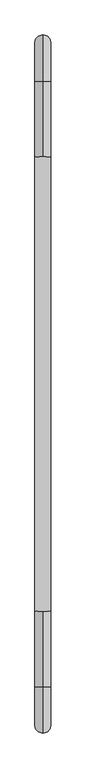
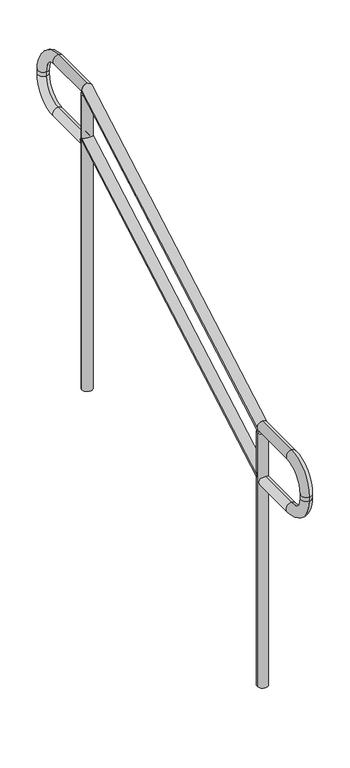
"""IFC4 building model written with IfcOpenShell, lengths in millimetres: railing geometry, Tubular com Fixação Tubular - 42mm com prolongamento."""

from ifc_helpers import new_model, si_unit, point, frame, frame_2d, origin, place, context, project, spatial, circle_curve, ellipse_curve, trimmed, segment, composite_curve, outline, extrude, source, transform, mapped, element, save
from ifc_brep_helpers import plane_surface, cylinder_surface, revolved_surface, advanced_brep


def railing_6d980c0e(model_context):
    return source(origin(), model_context, "Body", "SolidModel", [
        advanced_brep(
        [(5230.4201839, -4033.2411617, 1295.8626845), (5272.4201839, -4033.2411617, 1295.8626845), (5230.4201839, -2833.2411617, 1975.8626845), (5272.4201839, -2833.2411617, 1975.8626845)],
        [
            (0, 1, ellipse_curve(frame((5251.4201839, -4033.2411617, 1295.8626845), z_axis=(0.0, -1.0, 0.0), x_axis=(0.0, 0.0, -1.0)), 24.1373155, 21.0)),
            (1, 0, ellipse_curve(frame((5251.4201839, -4033.2411617, 1295.8626845), z_axis=(0.0, -1.0, 0.0), x_axis=(0.0, 0.0, -1.0)), 24.1373155, 21.0)),
            (2, 3, ellipse_curve(frame((5251.4201839, -2833.2411617, 1975.8626845), z_axis=(0.0, 1.0, 0.0), x_axis=(0.0, 0.0, -1.0)), 24.1373155, 21.0)),
            (3, 2, ellipse_curve(frame((5251.4201839, -2833.2411617, 1975.8626845), z_axis=(0.0, 1.0, 0.0), x_axis=(0.0, 0.0, -1.0)), 24.1373155, 21.0)),
            (0, 2),
            (3, 1),
        ],
        [
            plane_surface(frame((5251.4201839, -4033.2411617, 1320.0), z_axis=(0.0, -1.0, 0.0), x_axis=(0.0, 0.0, 1.0))),
            plane_surface(frame((5251.4201839, -2833.2411617, 2000.0), z_axis=(0.0, 1.0, 0.0), x_axis=(0.0, 0.0, 1.0))),
            cylinder_surface(frame((5251.4201839, -4022.8878977, 1301.7295341), z_axis=(0.0, -0.8700221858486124, -0.49301257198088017), x_axis=(1.0, 0.0, 0.0)), 21.0),
        ],
        [
            (0, [[1, 2]]),
            (1, [[3, 4]]),
            (2, [[-1, 5, -4, 6]]),
            (2, [[-2, -6, -3, -5]]),
        ],
    ),
        advanced_brep(
        [(5230.4201839, -4033.2411617, 1095.8626845), (5272.4201839, -4033.2411617, 1095.8626845), (5230.4201839, -2833.2411617, 1775.8626845), (5272.4201839, -2833.2411617, 1775.8626845)],
        [
            (0, 1, ellipse_curve(frame((5251.4201839, -4033.2411617, 1095.8626845), z_axis=(0.0, -1.0, 0.0), x_axis=(0.0, 0.0, -1.0)), 24.1373155, 21.0)),
            (1, 0, ellipse_curve(frame((5251.4201839, -4033.2411617, 1095.8626845), z_axis=(0.0, -1.0, 0.0), x_axis=(0.0, 0.0, -1.0)), 24.1373155, 21.0)),
            (2, 3, ellipse_curve(frame((5251.4201839, -2833.2411617, 1775.8626845), z_axis=(0.0, 1.0, 0.0), x_axis=(0.0, 0.0, -1.0)), 24.1373155, 21.0)),
            (3, 2, ellipse_curve(frame((5251.4201839, -2833.2411617, 1775.8626845), z_axis=(0.0, 1.0, 0.0), x_axis=(0.0, 0.0, -1.0)), 24.1373155, 21.0)),
            (0, 2),
            (3, 1),
        ],
        [
            plane_surface(frame((5251.4201839, -4033.2411617, 1120.0), z_axis=(0.0, -1.0, 0.0), x_axis=(0.0, 0.0, 1.0))),
            plane_surface(frame((5251.4201839, -2833.2411617, 1800.0), z_axis=(0.0, 1.0, 0.0), x_axis=(0.0, 0.0, 1.0))),
            cylinder_surface(frame((5251.4201839, -4022.8878977, 1101.7295341), z_axis=(0.0, -0.8700221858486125, -0.4930125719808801), x_axis=(1.0, 0.0, 0.0)), 21.0),
        ],
        [
            (0, [[1, 2]]),
            (1, [[3, 4]]),
            (2, [[-1, 5, -4, 6]]),
            (2, [[-2, -6, -3, -5]]),
        ],
    ),
        advanced_brep(
        [(5251.4201839, -2820.5411617, 1780.0), (5251.4201839, -2820.5411617, 1738.0), (5251.4201839, -2634.8411617, 1780.0), (5251.4201839, -2634.8411617, 1738.0), (5251.4201839, -2512.2411617, 1860.6), (5251.4201839, -2554.2411617, 1860.6), (5251.4201839, -2554.2411617, 1877.4), (5251.4201839, -2512.2411617, 1877.4), (5251.4201839, -2634.8411617, 2000.0), (5251.4201839, -2634.8411617, 1958.0), (5251.4201839, -2833.2411617, 1958.0), (5251.4201839, -2833.2411617, 2000.0)],
        [
            (0, 1, circle_curve(frame((5251.4201839, -2820.5411617, 1759.0), z_axis=(0.0, -1.0, 0.0), x_axis=(0.0, 0.0, -1.0)), 21.0)),
            (1, 0, circle_curve(frame((5251.4201839, -2820.5411617, 1759.0), z_axis=(0.0, -1.0, 0.0), x_axis=(0.0, 0.0, -1.0)), 21.0)),
            (0, 2),
            (2, 3, circle_curve(frame((5251.4201839, -2634.8411617, 1759.0), z_axis=(0.0, -1.0, 0.0), x_axis=(0.0, 0.0, -1.0)), 21.0)),
            (3, 1),
            (3, 2, circle_curve(frame((5251.4201839, -2634.8411617, 1759.0), z_axis=(0.0, -1.0, 0.0), x_axis=(0.0, 0.0, -1.0)), 21.0)),
            (4, 3, circle_curve(frame((5251.4201839, -2634.8411617, 1860.6), z_axis=(-1.0, 0.0, 0.0), x_axis=(0.0, 0.0, -1.0)), 122.6)),
            (2, 5, circle_curve(frame((5251.4201839, -2634.8411617, 1860.6), z_axis=(1.0, 0.0, 0.0), x_axis=(0.0, 0.0, -1.0)), 80.6)),
            (5, 4, circle_curve(frame((5251.4201839, -2533.2411617, 1860.6), z_axis=(0.0, 0.0, -1.0), x_axis=(0.0, 1.0, 0.0)), 21.0)),
            (4, 5, circle_curve(frame((5251.4201839, -2533.2411617, 1860.6), z_axis=(0.0, 0.0, -1.0), x_axis=(0.0, 1.0, 0.0)), 21.0)),
            (5, 6),
            (6, 7, circle_curve(frame((5251.4201839, -2533.2411617, 1877.4), z_axis=(0.0, 0.0, -1.0), x_axis=(0.0, 1.0, 0.0)), 21.0)),
            (7, 4),
            (7, 6, circle_curve(frame((5251.4201839, -2533.2411617, 1877.4), z_axis=(0.0, 0.0, -1.0), x_axis=(0.0, 1.0, 0.0)), 21.0)),
            (8, 7, circle_curve(frame((5251.4201839, -2634.8411617, 1877.4), z_axis=(-1.0, 0.0, 0.0), x_axis=(0.0, 1.0, 0.0)), 122.6)),
            (6, 9, circle_curve(frame((5251.4201839, -2634.8411617, 1877.4), z_axis=(1.0, 0.0, 0.0), x_axis=(0.0, 1.0, 0.0)), 80.6)),
            (9, 8, circle_curve(frame((5251.4201839, -2634.8411617, 1979.0), z_axis=(0.0, 1.0, 0.0), x_axis=(0.0, 0.0, 1.0)), 21.0)),
            (8, 9, circle_curve(frame((5251.4201839, -2634.8411617, 1979.0), z_axis=(0.0, 1.0, 0.0), x_axis=(0.0, 0.0, 1.0)), 21.0)),
            (10, 11, circle_curve(frame((5251.4201839, -2833.2411617, 1979.0), z_axis=(0.0, -1.0, 0.0), x_axis=(0.0, 0.0, 1.0)), 21.0)),
            (11, 10, circle_curve(frame((5251.4201839, -2833.2411617, 1979.0), z_axis=(0.0, -1.0, 0.0), x_axis=(0.0, 0.0, 1.0)), 21.0)),
            (9, 10),
            (11, 8),
        ],
        [
            plane_surface(frame((5272.4201839, -2820.5411617, 1759.0), z_axis=(0.0, -1.0, 0.0), x_axis=(0.0, 0.0, -1.0))),
            cylinder_surface(frame((5251.4201839, -2820.5411617, 1759.0), z_axis=(0.0, -1.0, 0.0), x_axis=(0.0, 0.0, -1.0)), 21.0),
            revolved_surface(trimmed(ellipse_curve(frame((5251.4201839, -2634.8411617, 1759.0), z_axis=(0.0, -1.0, 0.0), x_axis=(0.0, 0.0, -1.0)), 21.0, 21.0), [point((5251.4201839, -2634.8411617, 1780.0))], [point((5251.4201839, -2634.8411617, 1738.0))], True, "CARTESIAN"), (5251.4201839, -2634.8411617, 1860.6), (1.0, 0.0, 0.0)),
            revolved_surface(trimmed(ellipse_curve(frame((5251.4201839, -2634.8411617, 1759.0), z_axis=(0.0, -1.0, 0.0), x_axis=(0.0, 0.0, -1.0)), 21.0, 21.0), [point((5251.4201839, -2634.8411617, 1738.0))], [point((5251.4201839, -2634.8411617, 1780.0))], True, "CARTESIAN"), (5251.4201839, -2634.8411617, 1860.6), (1.0, 0.0, 0.0)),
            cylinder_surface(frame((5251.4201839, -2533.2411617, 1860.6), z_axis=(0.0, 0.0, -1.0), x_axis=(0.0, 1.0, 0.0)), 21.0),
            revolved_surface(trimmed(ellipse_curve(frame((5251.4201839, -2533.2411617, 1877.4), z_axis=(0.0, 0.0, -1.0), x_axis=(0.0, 1.0, 0.0)), 21.0, 21.0), [point((5251.4201839, -2554.2411617, 1877.4))], [point((5251.4201839, -2512.2411617, 1877.4))], True, "CARTESIAN"), (5251.4201839, -2634.8411617, 1877.4), (1.0, 0.0, 0.0)),
            revolved_surface(trimmed(ellipse_curve(frame((5251.4201839, -2533.2411617, 1877.4), z_axis=(0.0, 0.0, -1.0), x_axis=(0.0, 1.0, 0.0)), 21.0, 21.0), [point((5251.4201839, -2512.2411617, 1877.4))], [point((5251.4201839, -2554.2411617, 1877.4))], True, "CARTESIAN"), (5251.4201839, -2634.8411617, 1877.4), (1.0, 0.0, 0.0)),
            plane_surface(frame((5272.4201839, -2833.2411617, 1979.0), z_axis=(0.0, -1.0, 0.0), x_axis=(0.0, 0.0, 1.0))),
            cylinder_surface(frame((5251.4201839, -2634.8411617, 1979.0), z_axis=(0.0, 1.0, 0.0), x_axis=(0.0, 0.0, 1.0)), 21.0),
        ],
        [
            (0, [[1, 2]]),
            (1, [[-1, 3, 4, 5]]),
            (1, [[-2, -5, 6, -3]]),
            (2, [[7, -4, 8, 9]]),
            (3, [[-8, -6, -7, 10]]),
            (4, [[-9, 11, 12, 13]]),
            (4, [[-10, -13, 14, -11]]),
            (5, [[15, -12, 16, 17]]),
            (6, [[-16, -14, -15, 18]]),
            (7, [[19, 20]]),
            (8, [[-17, 21, -20, 22]]),
            (8, [[-18, -22, -19, -21]]),
        ],
    ),
        extrude(outline(composite_curve([segment(trimmed(circle_curve(frame_2d((5251.4201839, -2833.2411617)), 21.0), [point((5272.4201839, -2833.2411617))], [point((5230.4201839, -2833.2411617))], False, "CARTESIAN"), True, "CONTINUOUS"), segment(trimmed(circle_curve(frame_2d((5251.4201839, -2833.2411617)), 21.0), [point((5230.4201839, -2833.2411617))], [point((5272.4201839, -2833.2411617))], False, "CARTESIAN"), True, "CONTINUOUS")], self_intersect=False)), frame((0.0, 0.0, 730.0), z_axis=(0.0, 0.0, 1.0), x_axis=(1.0, 0.0, 0.0)), (0.0, 0.0, 1.0), 1228.0),
        advanced_brep(
        [(5251.4201839, -4033.2411617, 1278.0), (5251.4201839, -4033.2411617, 1320.0), (5251.4201839, -4231.6411617, 1278.0), (5251.4201839, -4231.6411617, 1320.0), (5251.4201839, -4354.2411617, 1197.4), (5251.4201839, -4312.2411617, 1197.4), (5251.4201839, -4312.2411617, 1180.6), (5251.4201839, -4354.2411617, 1180.6), (5251.4201839, -4231.6411617, 1058.0), (5251.4201839, -4231.6411617, 1100.0), (5251.4201839, -4045.9411617, 1100.0), (5251.4201839, -4045.9411617, 1058.0)],
        [
            (0, 1, circle_curve(frame((5251.4201839, -4033.2411617, 1299.0), z_axis=(0.0, 1.0, 0.0), x_axis=(0.0, 0.0, 1.0)), 21.0)),
            (1, 0, circle_curve(frame((5251.4201839, -4033.2411617, 1299.0), z_axis=(0.0, 1.0, 0.0), x_axis=(0.0, 0.0, 1.0)), 21.0)),
            (0, 2),
            (2, 3, circle_curve(frame((5251.4201839, -4231.6411617, 1299.0), z_axis=(0.0, 1.0, 0.0), x_axis=(0.0, 0.0, 1.0)), 21.0)),
            (3, 1),
            (3, 2, circle_curve(frame((5251.4201839, -4231.6411617, 1299.0), z_axis=(0.0, 1.0, 0.0), x_axis=(0.0, 0.0, 1.0)), 21.0)),
            (4, 3, circle_curve(frame((5251.4201839, -4231.6411617, 1197.4), z_axis=(-1.0, 0.0, 0.0), x_axis=(0.0, 0.0, 1.0)), 122.6)),
            (2, 5, circle_curve(frame((5251.4201839, -4231.6411617, 1197.4), z_axis=(1.0, 0.0, 0.0), x_axis=(0.0, 0.0, 1.0)), 80.6)),
            (5, 4, circle_curve(frame((5251.4201839, -4333.2411617, 1197.4), z_axis=(0.0, 0.0, 1.0), x_axis=(0.0, -1.0, 0.0)), 21.0)),
            (4, 5, circle_curve(frame((5251.4201839, -4333.2411617, 1197.4), z_axis=(0.0, 0.0, 1.0), x_axis=(0.0, -1.0, 0.0)), 21.0)),
            (5, 6),
            (6, 7, circle_curve(frame((5251.4201839, -4333.2411617, 1180.6), z_axis=(0.0, 0.0, 1.0), x_axis=(0.0, -1.0, 0.0)), 21.0)),
            (7, 4),
            (7, 6, circle_curve(frame((5251.4201839, -4333.2411617, 1180.6), z_axis=(0.0, 0.0, 1.0), x_axis=(0.0, -1.0, 0.0)), 21.0)),
            (8, 7, circle_curve(frame((5251.4201839, -4231.6411617, 1180.6), z_axis=(-1.0, 0.0, 0.0), x_axis=(0.0, -1.0, 0.0)), 122.6)),
            (6, 9, circle_curve(frame((5251.4201839, -4231.6411617, 1180.6), z_axis=(1.0, 0.0, 0.0), x_axis=(0.0, -1.0, 0.0)), 80.6)),
            (9, 8, circle_curve(frame((5251.4201839, -4231.6411617, 1079.0), z_axis=(0.0, -1.0, 0.0), x_axis=(0.0, 0.0, -1.0)), 21.0)),
            (8, 9, circle_curve(frame((5251.4201839, -4231.6411617, 1079.0), z_axis=(0.0, -1.0, 0.0), x_axis=(0.0, 0.0, -1.0)), 21.0)),
            (10, 11, circle_curve(frame((5251.4201839, -4045.9411617, 1079.0), z_axis=(0.0, 1.0, 0.0), x_axis=(0.0, 0.0, -1.0)), 21.0)),
            (11, 10, circle_curve(frame((5251.4201839, -4045.9411617, 1079.0), z_axis=(0.0, 1.0, 0.0), x_axis=(0.0, 0.0, -1.0)), 21.0)),
            (9, 10),
            (11, 8),
        ],
        [
            plane_surface(frame((5272.4201839, -4033.2411617, 1299.0), z_axis=(0.0, 1.0, 0.0), x_axis=(0.0, 0.0, 1.0))),
            cylinder_surface(frame((5251.4201839, -4033.2411617, 1299.0), z_axis=(0.0, 1.0, 0.0), x_axis=(0.0, 0.0, 1.0)), 21.0),
            revolved_surface(trimmed(ellipse_curve(frame((5251.4201839, -4231.6411617, 1299.0), z_axis=(0.0, 1.0, 0.0), x_axis=(0.0, 0.0, 1.0)), 21.0, 21.0), [point((5251.4201839, -4231.6411617, 1278.0))], [point((5251.4201839, -4231.6411617, 1320.0))], True, "CARTESIAN"), (5251.4201839, -4231.6411617, 1197.4), (1.0, 0.0, 0.0)),
            revolved_surface(trimmed(ellipse_curve(frame((5251.4201839, -4231.6411617, 1299.0), z_axis=(0.0, 1.0, 0.0), x_axis=(0.0, 0.0, 1.0)), 21.0, 21.0), [point((5251.4201839, -4231.6411617, 1320.0))], [point((5251.4201839, -4231.6411617, 1278.0))], True, "CARTESIAN"), (5251.4201839, -4231.6411617, 1197.4), (1.0, 0.0, 0.0)),
            cylinder_surface(frame((5251.4201839, -4333.2411617, 1197.4), z_axis=(0.0, 0.0, 1.0), x_axis=(0.0, -1.0, 0.0)), 21.0),
            revolved_surface(trimmed(ellipse_curve(frame((5251.4201839, -4333.2411617, 1180.6), z_axis=(0.0, 0.0, 1.0), x_axis=(0.0, -1.0, 0.0)), 21.0, 21.0), [point((5251.4201839, -4312.2411617, 1180.6))], [point((5251.4201839, -4354.2411617, 1180.6))], True, "CARTESIAN"), (5251.4201839, -4231.6411617, 1180.6), (1.0, 0.0, 0.0)),
            revolved_surface(trimmed(ellipse_curve(frame((5251.4201839, -4333.2411617, 1180.6), z_axis=(0.0, 0.0, 1.0), x_axis=(0.0, -1.0, 0.0)), 21.0, 21.0), [point((5251.4201839, -4354.2411617, 1180.6))], [point((5251.4201839, -4312.2411617, 1180.6))], True, "CARTESIAN"), (5251.4201839, -4231.6411617, 1180.6), (1.0, 0.0, 0.0)),
            plane_surface(frame((5272.4201839, -4045.9411617, 1079.0), z_axis=(0.0, 1.0, 0.0), x_axis=(0.0, 0.0, -1.0))),
            cylinder_surface(frame((5251.4201839, -4231.6411617, 1079.0), z_axis=(0.0, -1.0, 0.0), x_axis=(0.0, 0.0, -1.0)), 21.0),
        ],
        [
            (0, [[1, 2]]),
            (1, [[-1, 3, 4, 5]]),
            (1, [[-2, -5, 6, -3]]),
            (2, [[7, -4, 8, 9]]),
            (3, [[-8, -6, -7, 10]]),
            (4, [[-9, 11, 12, 13]]),
            (4, [[-10, -13, 14, -11]]),
            (5, [[15, -12, 16, 17]]),
            (6, [[-16, -14, -15, 18]]),
            (7, [[19, 20]]),
            (8, [[-17, 21, -20, 22]]),
            (8, [[-18, -22, -19, -21]]),
        ],
    ),
        extrude(outline(composite_curve([segment(trimmed(circle_curve(frame_2d((5251.4201839, -4033.2411617)), 21.0), [point((5272.4201839, -4033.2411617))], [point((5230.4201839, -4033.2411617))], False, "CARTESIAN"), True, "CONTINUOUS"), segment(trimmed(circle_curve(frame_2d((5251.4201839, -4033.2411617)), 21.0), [point((5230.4201839, -4033.2411617))], [point((5272.4201839, -4033.2411617))], False, "CARTESIAN"), True, "CONTINUOUS")], self_intersect=False)), frame((0.0, 0.0, 220.0), z_axis=(0.0, 0.0, 1.0), x_axis=(1.0, 0.0, 0.0)), (0.0, 0.0, 1.0), 1058.0),
    ])


if __name__ == "__main__":
    model = new_model("IFC4")
    model_context = context("Model", 3, world=origin())
    ifc_project = project(units=[si_unit("LENGTHUNIT", "METRE", prefix="MILLI")], contexts=[model_context])
    site = spatial("IfcSite", under=ifc_project)
    building = spatial("IfcBuilding", under=site)
    placement = place(None, origin())
    railing_shape = railing_6d980c0e(model_context)
    element("IfcRailing", 1, ObjectType="Tubular com Fixação Tubular - 42mm com prolongamento", at=placement, inside=building, context=model_context, shape_type="MappedRepresentation", body=[
        mapped(railing_shape, transform((0.0, 0.0, 0.0), x_axis=(1.0, 0.0, 0.0), y_axis=(0.0, 1.0, 0.0), z_axis=(0.0, 0.0, 1.0))),
    ])
    save(model, "model.ifc")
